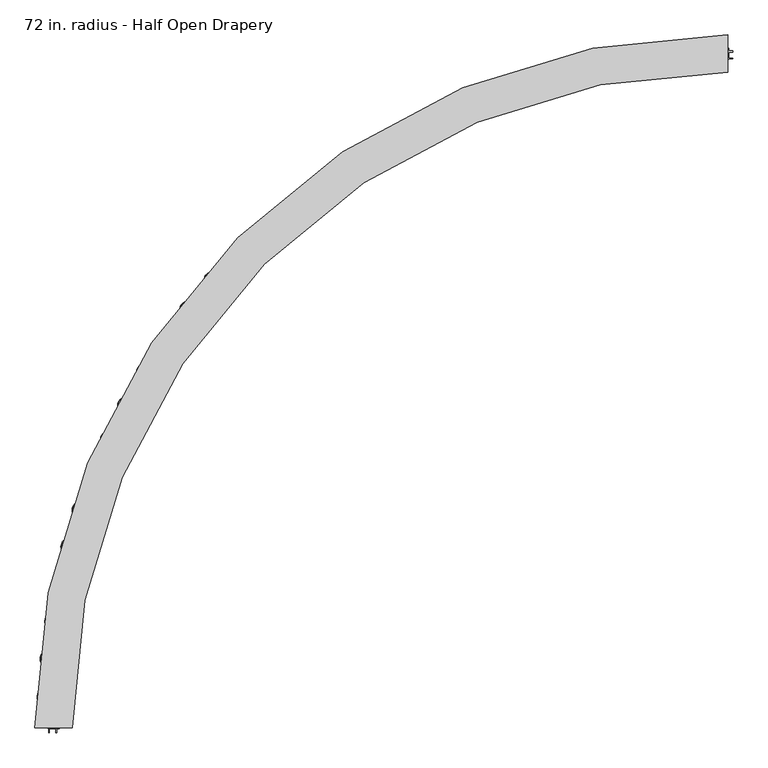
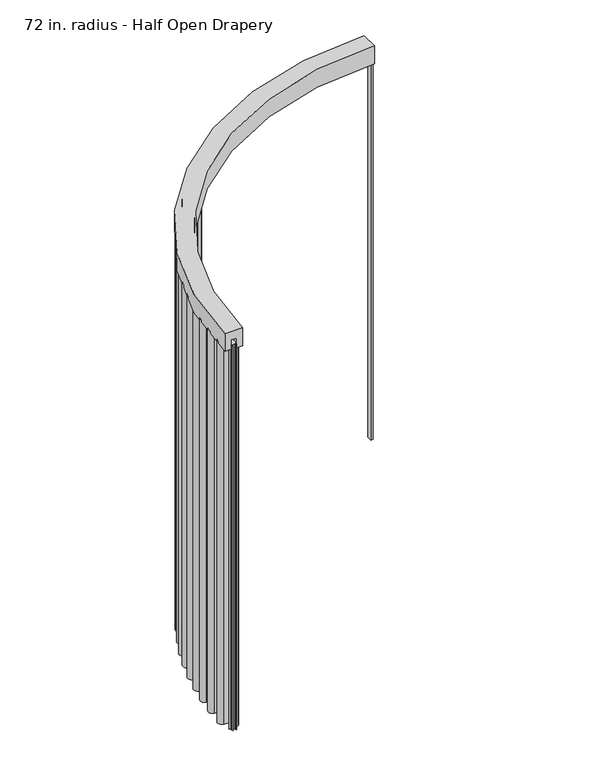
"""IFC4 building model written with IfcOpenShell, lengths in millimetres: furniture geometry, Haworth_Pergola_Drapery_Radial : 72 in. radius - Half Open Drapery."""

from ifc_helpers import new_model, si_unit, point, frame, frame_2d, origin, place, context, project, spatial, polyline, circle_curve, trimmed, segment, composite_curve, outline, extrude, source, transform, mapped, element, save
from ifc_brep_helpers import plane_surface, cylinder_surface, revolved_surface, advanced_brep


def furniture_72_in_radius_half_open_drapery_9427be67(model_context):
    return source(origin(), model_context, "Body", "SolidModel", [
        advanced_brep(
        [(38.1006913, 1880.0004562, 2438.4), (38.1006913, 1778.4004562, 2438.4), (38.1006913, 1778.4004562, 2331.8390625), (38.1006913, 1813.9821615, 2331.8390625), (38.1006913, 1813.9821615, 2388.7001663), (38.1006913, 1844.418751, 2388.7001663), (38.1006913, 1844.418751, 2331.8390625), (38.1006913, 1880.0004562, 2331.8390625), (-1841.899765, 0.0, 2438.4), (-1841.899765, 0.0, 2331.8390625), (-1806.3180598, 0.0, 2331.8390625), (-1806.3180598, 0.0, 2388.7001663), (-1775.8814702, 0.0, 2388.7001663), (-1775.8814702, 0.0, 2331.8390625), (-1740.299765, 0.0, 2331.8390625), (-1740.299765, 0.0, 2438.4)],
        [
            (0, 1),
            (1, 2),
            (2, 3),
            (3, 4),
            (4, 5),
            (5, 6),
            (6, 7),
            (7, 0),
            (8, 9),
            (9, 10),
            (10, 11),
            (11, 12),
            (12, 13),
            (13, 14),
            (14, 15),
            (15, 8),
            (15, 1, circle_curve(frame((38.1006913, 0.0, 2438.4), z_axis=(0.0, 0.0, -1.0), x_axis=(0.0, 1.0, 0.0)), 1778.4004562)),
            (0, 8, circle_curve(frame((38.1006913, 0.0, 2438.4), z_axis=(0.0, 0.0, 1.0), x_axis=(0.0, 1.0, 0.0)), 1880.0004562)),
            (14, 2, circle_curve(frame((38.1006913, 0.0, 2331.8390625), z_axis=(0.0, 0.0, -1.0), x_axis=(0.0, 1.0, 0.0)), 1778.4004562)),
            (7, 9, circle_curve(frame((38.1006913, 0.0, 2331.8390625), z_axis=(0.0, 0.0, 1.0), x_axis=(0.0, 1.0, 0.0)), 1880.0004562)),
            (13, 3, circle_curve(frame((38.1006913, 0.0, 2331.8390625), z_axis=(0.0, 0.0, -1.0), x_axis=(0.0, 1.0, 0.0)), 1813.9821615)),
            (12, 4, circle_curve(frame((38.1006913, 0.0, 2388.7001663), z_axis=(0.0, 0.0, -1.0), x_axis=(0.0, 1.0, 0.0)), 1813.9821615)),
            (11, 5, circle_curve(frame((38.1006913, 0.0, 2388.7001663), z_axis=(0.0, 0.0, -1.0), x_axis=(0.0, 1.0, 0.0)), 1844.418751)),
            (10, 6, circle_curve(frame((38.1006913, 0.0, 2331.8390625), z_axis=(0.0, 0.0, -1.0), x_axis=(0.0, 1.0, 0.0)), 1844.418751)),
        ],
        [
            plane_surface(frame((38.1006913, 0.0, 2451.1), z_axis=(1.0, 0.0, 0.0), x_axis=(0.0, 1.0, 0.0))),
            plane_surface(frame((38.1006913, 0.0, 2451.1), z_axis=(0.0, -1.0, 0.0), x_axis=(-1.0, 0.0, 0.0))),
            plane_surface(frame((38.1006913, 0.0, 2438.4), z_axis=(0.0, 0.0, 1.0), x_axis=(0.0, 1.0, 0.0))),
            revolved_surface(polyline([(38.1006913, 1778.4004562, 2438.4), (38.1006913, 1778.4004562, 2331.8390625)]), (38.1006913, 0.0, 2451.1), (0.0, 0.0, 1.0)),
            cylinder_surface(frame((38.1006913, 0.0, 2451.1), z_axis=(0.0, 0.0, 1.0), x_axis=(0.0, 1.0, 0.0)), 1880.0004562),
            plane_surface(frame((38.1006913, 0.0, 2331.8390625), z_axis=(0.0, 0.0, -1.0), x_axis=(0.0, 1.0, 0.0))),
            cylinder_surface(frame((38.1006913, 0.0, 2451.1), z_axis=(0.0, 0.0, 1.0), x_axis=(0.0, 1.0, 0.0)), 1813.9821615),
            plane_surface(frame((38.1006913, 0.0, 2388.7001663), z_axis=(0.0, 0.0, -1.0), x_axis=(0.0, 1.0, 0.0))),
            revolved_surface(polyline([(38.1006913, 1844.418751, 2388.7001663), (38.1006913, 1844.418751, 2331.8390625)]), (38.1006913, 0.0, 2451.1), (0.0, 0.0, 1.0)),
        ],
        [
            (0, [[1, 2, 3, 4, 5, 6, 7, 8]]),
            (1, [[9, 10, 11, 12, 13, 14, 15, 16]]),
            (2, [[17, -1, 18, -16]]),
            (3, [[19, -2, -17, -15]]),
            (4, [[-18, -8, 20, -9]]),
            (5, [[21, -3, -19, -14]]),
            (6, [[22, -4, -21, -13]]),
            (7, [[23, -5, -22, -12]]),
            (8, [[24, -6, -23, -11]]),
            (5, [[-20, -7, -24, -10]]),
        ],
    ),
        extrude(outline(composite_curve([segment(polyline([(-1813.2675039, 8.7991729), (-1813.2675039, 9.5929229), (-1772.6295579, 9.5929229)]), True, "CONTINUOUS"), segment(trimmed(circle_curve(frame_2d((-1772.6295579, 32.2004487)), 22.6075258), [point((-1772.6295579, 9.5929229))], [point((-1769.6769803, 54.6143396))], True, "CARTESIAN"), True, "CONTINUOUS"), segment(polyline([(-1769.6769803, 54.6143396), (-1814.6857035, 60.54333)]), True, "CONTINUOUS"), segment(trimmed(circle_curve(frame_2d((-1811.5275882, 84.5175193)), 24.1813036), [point((-1814.6857035, 60.54333))], [point((-1812.4998595, 108.6792688))], False, "CARTESIAN"), True, "CONTINUOUS"), segment(polyline([(-1812.4998595, 108.6792688), (-1767.1091523, 110.5057956)]), True, "CONTINUOUS"), segment(trimmed(circle_curve(frame_2d((-1768.0180469, 133.0925785)), 22.6050625), [point((-1767.1091523, 110.5057956))], [point((-1763.8193529, 155.3042831))], True, "CARTESIAN"), True, "CONTINUOUS"), segment(polyline([(-1763.8193529, 155.3042831), (-1808.286458, 163.7099309)]), True, "CONTINUOUS"), segment(trimmed(circle_curve(frame_2d((-1803.7922369, 187.4850177)), 24.1961314), [point((-1808.286458, 163.7099309))], [point((-1803.4140194, 211.6781929))], False, "CARTESIAN"), True, "CONTINUOUS"), segment(polyline([(-1803.4140194, 211.6781929), (-1758.1420693, 210.9704462)]), True, "CONTINUOUS"), segment(trimmed(circle_curve(frame_2d((-1757.788763, 233.5701509)), 22.6024662), [point((-1758.1420693, 210.9704462))], [point((-1752.3573521, 255.5103253))], True, "CARTESIAN"), True, "CONTINUOUS"), segment(polyline([(-1752.3573521, 255.5103253), (-1796.4292649, 266.4205699)]), True, "CONTINUOUS"), segment(trimmed(circle_curve(frame_2d((-1790.6174697, 289.897306)), 24.1854108), [point((-1796.4292649, 266.4205699))], [point((-1788.8901204, 314.0209533))], False, "CARTESIAN"), True, "CONTINUOUS"), segment(polyline([(-1788.8901204, 314.0209533), (-1743.5851539, 310.7769372)]), True, "CONTINUOUS"), segment(trimmed(circle_curve(frame_2d((-1741.9710116, 333.3195691)), 22.6003475), [point((-1743.5851539, 310.7769372))], [point((-1735.3239561, 354.9203182))], True, "CARTESIAN"), True, "CONTINUOUS"), segment(polyline([(-1735.3239561, 354.9203182), (-1778.5125348, 368.2104535)]), True, "CONTINUOUS"), segment(trimmed(circle_curve(frame_2d((-1771.3933974, 391.345314)), 24.2054516), [point((-1778.5125348, 368.2104535))], [point((-1768.3195733, 415.3548016))], False, "CARTESIAN"), True, "CONTINUOUS"), segment(polyline([(-1768.3195733, 415.3548016), (-1723.5637359, 409.6249178)]), True, "CONTINUOUS"), segment(trimmed(circle_curve(frame_2d((-1720.6927841, 432.0497797)), 22.6078923), [point((-1723.5637359, 409.6249178))], [point((-1712.8477053, 453.2528817))], True, "CARTESIAN"), True, "CONTINUOUS"), segment(polyline([(-1712.8477053, 453.2528817), (-1755.3793884, 468.9894662)]), True, "CONTINUOUS"), segment(trimmed(circle_curve(frame_2d((-1746.9867429, 491.6724911)), 24.1858661), [point((-1755.3793884, 468.9894662))], [point((-1742.5810222, 515.4536967))], False, "CARTESIAN"), True, "CONTINUOUS"), segment(polyline([(-1742.5810222, 515.4536967), (-1697.7640357, 507.1508743)]), True, "CONTINUOUS"), segment(trimmed(circle_curve(frame_2d((-1693.6505392, 529.3547116)), 22.5816572), [point((-1697.7640357, 507.1508743))], [point((-1684.644538, 550.0627581))], True, "CARTESIAN"), True, "CONTINUOUS"), segment(polyline([(-1684.644538, 550.0627581), (-1726.3426429, 568.1974083)]), True, "CONTINUOUS"), segment(trimmed(circle_curve(frame_2d((-1716.6931292, 590.3851225)), 24.1952015), [point((-1726.3426429, 568.1974083))], [point((-1710.9645402, 613.8923776))], False, "CARTESIAN"), True, "CONTINUOUS"), segment(polyline([(-1710.9645402, 613.8923776), (-1667.1292609, 603.2099608)]), True, "CONTINUOUS"), segment(trimmed(circle_curve(frame_2d((-1661.7731813, 625.1886241)), 22.621875), [point((-1667.1292609, 603.2099608))], [point((-1651.6072198, 645.3975937))], True, "CARTESIAN"), True, "CONTINUOUS"), segment(polyline([(-1651.6072198, 645.3975937), (-1691.7651569, 665.5987249)]), True, "CONTINUOUS"), segment(trimmed(circle_curve(frame_2d((-1680.8857945, 687.2258679)), 24.209375), [point((-1691.7651569, 665.5987249))], [point((-1673.8498546, 710.390267))], False, "CARTESIAN"), True, "CONTINUOUS"), segment(polyline([(-1673.8498546, 710.390267), (-1630.8375466, 697.3257357)]), True, "CONTINUOUS"), segment(trimmed(circle_curve(frame_2d((-1624.2629798, 718.9711579)), 22.621875), [point((-1630.8375466, 697.3257357))], [point((-1612.9847645, 738.5811321))], True, "CARTESIAN"), True, "CONTINUOUS"), segment(polyline([(-1612.9847645, 738.5811321), (-1651.9526335, 760.9925851)]), True, "CONTINUOUS"), segment(trimmed(circle_curve(frame_2d((-1639.8829645, 781.9786979)), 24.209375), [point((-1651.9526335, 760.9925851))], [point((-1631.564904, 804.7142143))], False, "CARTESIAN"), True, "CONTINUOUS"), segment(polyline([(-1631.564904, 804.7142143), (-1589.3483107, 789.268769)]), True, "CONTINUOUS"), segment(trimmed(circle_curve(frame_2d((-1581.5756968, 810.5134319)), 22.621875), [point((-1589.3483107, 789.268769))], [point((-1569.2204104, 829.4632637))], True, "CARTESIAN"), True, "CONTINUOUS"), segment(polyline([(-1569.2204104, 829.4632637), (-1606.8765453, 854.0150556)]), True, "CONTINUOUS"), segment(trimmed(circle_curve(frame_2d((-1593.6542213, 874.2947002)), 24.209375), [point((-1606.8765453, 854.0150556))], [point((-1584.0799774, 896.5304303))], False, "CARTESIAN"), True, "CONTINUOUS"), segment(polyline([(-1584.0799774, 896.5304303), (-1542.7920826, 878.7527196)]), True, "CONTINUOUS"), segment(trimmed(circle_curve(frame_2d((-1533.8456579, 899.5303691)), 22.621875), [point((-1542.7920826, 878.7527196))], [point((-1520.4517928, 917.7609369))], True, "CARTESIAN"), True, "CONTINUOUS"), segment(polyline([(-1520.4517928, 917.7609369), (-1556.6783212, 944.3763028)]), True, "CONTINUOUS"), segment(trimmed(circle_curve(frame_2d((-1542.3445357, 963.8862088)), 24.209375), [point((-1556.6783212, 944.3763028))], [point((-1531.5440207, 985.5528355))], False, "CARTESIAN"), True, "CONTINUOUS"), segment(polyline([(-1531.5440207, 985.5528355), (-1491.3127076, 965.49808)]), True, "CONTINUOUS"), segment(trimmed(circle_curve(frame_2d((-1481.220423, 985.7439443)), 22.621875), [point((-1491.3127076, 965.49808))], [point((-1466.8298301, 1003.1984584))], True, "CARTESIAN"), True, "CONTINUOUS"), segment(polyline([(-1466.8298301, 1003.1984584), (-1501.5145614, 1031.7947198)]), True, "CONTINUOUS"), segment(trimmed(circle_curve(frame_2d((-1486.1141024, 1050.4741121)), 24.209375), [point((-1501.5145614, 1031.7947198))], [point((-1474.1209556, 1071.5040495))], False, "CARTESIAN"), True, "CONTINUOUS"), segment(polyline([(-1474.1209556, 1071.5040495), (-1435.0715605, 1049.2346001)]), True, "CONTINUOUS"), segment(trimmed(circle_curve(frame_2d((-1423.8648496, 1068.8855253)), 22.621875), [point((-1435.0715605, 1049.2346001))], [point((-1408.5223554, 1085.509517))], True, "CARTESIAN"), True, "CONTINUOUS"), segment(polyline([(-1408.5223554, 1085.509517), (-1441.5564396, 1115.9970949)]), True, "CONTINUOUS"), segment(trimmed(circle_curve(frame_2d((-1425.1372792, 1133.7876826)), 24.209375), [point((-1441.5564396, 1115.9970949))], [point((-1411.9889102, 1154.1153541))], False, "CARTESIAN"), True, "CONTINUOUS"), segment(polyline([(-1411.9889102, 1154.1153541), (-1374.2437703, 1129.7009971)]), True, "CONTINUOUS"), segment(trimmed(circle_curve(frame_2d((-1361.9575893, 1148.6957065)), 22.621875), [point((-1374.2437703, 1129.7009971))], [point((-1345.7110388, 1164.4373336))], True, "CARTESIAN"), True, "CONTINUOUS"), segment(polyline([(-1345.7110388, 1164.4373336), (-1376.9916265, 1196.7212674)]), True, "CONTINUOUS"), segment(trimmed(circle_curve(frame_2d((-1359.6049671, 1213.5675701)), 24.209375), [point((-1376.9916265, 1196.7212674))], [point((-1345.3423961, 1233.1295973))], False, "CARTESIAN"), True, "CONTINUOUS"), segment(polyline([(-1345.3423961, 1233.1295973), (-1309.0188842, 1206.6463159)]), True, "CONTINUOUS"), segment(trimmed(circle_curve(frame_2d((-1295.6915637, 1224.9255872)), 22.621875), [point((-1309.0188842, 1206.6463159))], [point((-1278.5916131, 1239.7357497))], True, "CARTESIAN"), True, "CONTINUOUS"), segment(polyline([(-1278.5916131, 1239.7357497), (-1308.0214637, 1273.7157274)]), True, "CONTINUOUS"), segment(trimmed(circle_curve(frame_2d((-1289.7215165, 1289.5651997)), 24.209375), [point((-1308.0214637, 1273.7157274))], [point((-1274.3891813, 1308.3005495))], False, "CARTESIAN"), True, "CONTINUOUS"), segment(polyline([(-1274.3891813, 1308.3005495), (-1239.6008033, 1279.8309945), (-1240.1648625, 1279.2669353), (-1274.8918808, 1307.6862757)]), True, "CONTINUOUS"), segment(trimmed(circle_curve(frame_2d((-1289.7215165, 1289.5651997)), 23.415625), [point((-1274.8918808, 1307.6862757))], [point((-1307.4214654, 1274.2353823))], True, "CARTESIAN"), True, "CONTINUOUS"), segment(polyline([(-1307.4214654, 1274.2353823), (-1277.9916148, 1240.2554046)]), True, "CONTINUOUS"), segment(trimmed(circle_curve(frame_2d((-1295.6915637, 1224.9255872)), 23.415625), [point((-1277.9916148, 1240.2554046))], [point((-1309.4865095, 1206.004938))], False, "CARTESIAN"), True, "CONTINUOUS"), segment(polyline([(-1309.4865095, 1206.004938), (-1345.8100214, 1232.4882193)]), True, "CONTINUOUS"), segment(trimmed(circle_curve(frame_2d((-1359.6049671, 1213.5675701)), 23.415625), [point((-1345.8100214, 1232.4882193))], [point((-1376.4215721, 1197.2736052))], True, "CARTESIAN"), True, "CONTINUOUS"), segment(polyline([(-1376.4215721, 1197.2736052), (-1345.1409844, 1164.9896714)]), True, "CONTINUOUS"), segment(trimmed(circle_curve(frame_2d((-1361.9575893, 1148.6957065)), 23.415625), [point((-1345.1409844, 1164.9896714))], [point((-1374.6748643, 1129.034516))], False, "CARTESIAN"), True, "CONTINUOUS"), segment(polyline([(-1374.6748643, 1129.034516), (-1412.4200042, 1153.4488731)]), True, "CONTINUOUS"), segment(trimmed(circle_curve(frame_2d((-1425.1372792, 1133.7876826)), 23.415625), [point((-1412.4200042, 1153.4488731))], [point((-1441.0181065, 1116.5803929))], True, "CARTESIAN"), True, "CONTINUOUS"), segment(polyline([(-1441.0181065, 1116.5803929), (-1407.9840223, 1086.092815)]), True, "CONTINUOUS"), segment(trimmed(circle_curve(frame_2d((-1423.8648496, 1068.8855253)), 23.415625), [point((-1407.9840223, 1086.092815))], [point((-1435.4647784, 1048.545094))], False, "CARTESIAN"), True, "CONTINUOUS"), segment(polyline([(-1435.4647784, 1048.545094), (-1474.5141735, 1070.8145434)]), True, "CONTINUOUS"), segment(trimmed(circle_curve(frame_2d((-1486.1141024, 1050.4741121)), 23.415625), [point((-1474.5141735, 1070.8145434))], [point((-1501.0096283, 1032.4071589))], True, "CARTESIAN"), True, "CONTINUOUS"), segment(polyline([(-1501.0096283, 1032.4071589), (-1466.324897, 1003.8108975)]), True, "CONTINUOUS"), segment(trimmed(circle_curve(frame_2d((-1481.220423, 985.7439443)), 23.415625), [point((-1466.324897, 1003.8108975))], [point((-1491.6668228, 964.7876988))], False, "CARTESIAN"), True, "CONTINUOUS"), segment(polyline([(-1491.6668228, 964.7876988), (-1531.8981359, 984.8424543)]), True, "CONTINUOUS"), segment(trimmed(circle_curve(frame_2d((-1542.3445357, 963.8862088)), 23.415625), [point((-1531.8981359, 984.8424543))], [point((-1556.208361, 945.0159719))], True, "CARTESIAN"), True, "CONTINUOUS"), segment(polyline([(-1556.208361, 945.0159719), (-1519.9818326, 918.400606)]), True, "CONTINUOUS"), segment(trimmed(circle_curve(frame_2d((-1533.8456579, 899.5303691)), 23.415625), [point((-1519.9818326, 918.400606))], [point((-1543.1059922, 878.0236793))], False, "CARTESIAN"), True, "CONTINUOUS"), segment(polyline([(-1543.1059922, 878.0236793), (-1584.3938871, 895.80139)]), True, "CONTINUOUS"), segment(trimmed(circle_curve(frame_2d((-1593.6542213, 874.2947002)), 23.415625), [point((-1584.3938871, 895.80139))], [point((-1606.4430265, 854.679962))], True, "CARTESIAN"), True, "CONTINUOUS"), segment(polyline([(-1606.4430265, 854.679962), (-1568.7868916, 830.1281701)]), True, "CONTINUOUS"), segment(trimmed(circle_curve(frame_2d((-1581.5756968, 810.5134319)), 23.415625), [point((-1568.7868916, 830.1281701))], [point((-1589.621034, 788.5233422))], False, "CARTESIAN"), True, "CONTINUOUS"), segment(polyline([(-1589.621034, 788.5233422), (-1631.8376273, 803.9687876)]), True, "CONTINUOUS"), segment(trimmed(circle_curve(frame_2d((-1639.8829645, 781.9786979)), 23.415625), [point((-1631.8376273, 803.9687876))], [point((-1651.5569066, 761.6806544))], True, "CARTESIAN"), True, "CONTINUOUS"), segment(polyline([(-1651.5569066, 761.6806544), (-1612.5890376, 739.2692013)]), True, "CONTINUOUS"), segment(trimmed(circle_curve(frame_2d((-1624.2629798, 718.9711579)), 23.415625), [point((-1612.5890376, 739.2692013))], [point((-1631.0682332, 696.5662472))], False, "CARTESIAN"), True, "CONTINUOUS"), segment(polyline([(-1631.0682332, 696.5662472), (-1674.0805411, 709.6307785)]), True, "CONTINUOUS"), segment(trimmed(circle_curve(frame_2d((-1680.8857945, 687.2258679)), 23.415625), [point((-1674.0805411, 709.6307785))], [point((-1691.4084565, 666.3078116))], True, "CARTESIAN"), True, "CONTINUOUS"), segment(polyline([(-1691.4084565, 666.3078116), (-1651.2505193, 646.1066804)]), True, "CONTINUOUS"), segment(trimmed(circle_curve(frame_2d((-1661.7731813, 625.1886241)), 23.415625), [point((-1651.2505193, 646.1066804))], [point((-1667.3171935, 602.4387796))], False, "CARTESIAN"), True, "CONTINUOUS"), segment(polyline([(-1667.3171935, 602.4387796), (-1711.1524728, 613.1211965)]), True, "CONTINUOUS"), segment(trimmed(circle_curve(frame_2d((-1716.6931292, 590.3851225)), 23.4014515), [point((-1711.1524728, 613.1211965))], [point((-1726.0260801, 568.9253005))], True, "CARTESIAN"), True, "CONTINUOUS"), segment(polyline([(-1726.0260801, 568.9253005), (-1684.3279752, 550.7906503)]), True, "CONTINUOUS"), segment(trimmed(circle_curve(frame_2d((-1693.6505392, 529.3547116)), 23.3754072), [point((-1684.3279752, 550.7906503))], [point((-1697.9086259, 506.3704048))], False, "CARTESIAN"), True, "CONTINUOUS"), segment(polyline([(-1697.9086259, 506.3704048), (-1742.7256125, 514.6732272)]), True, "CONTINUOUS"), segment(trimmed(circle_curve(frame_2d((-1746.9867429, 491.6724911)), 23.3921161), [point((-1742.7256125, 514.6732272))], [point((-1755.1039522, 469.7338948))], True, "CARTESIAN"), True, "CONTINUOUS"), segment(polyline([(-1755.1039522, 469.7338948), (-1712.5722691, 453.9973104)]), True, "CONTINUOUS"), segment(trimmed(circle_curve(frame_2d((-1720.6927841, 432.0497797)), 23.4016423), [point((-1712.5722691, 453.9973104))], [point((-1723.6645333, 408.8375939))], False, "CARTESIAN"), True, "CONTINUOUS"), segment(polyline([(-1723.6645333, 408.8375939), (-1768.4203708, 414.5674777)]), True, "CONTINUOUS"), segment(trimmed(circle_curve(frame_2d((-1771.3933974, 391.345314)), 23.4117016), [point((-1768.4203708, 414.5674777))], [point((-1778.2790827, 368.9690964))], True, "CARTESIAN"), True, "CONTINUOUS"), segment(polyline([(-1778.2790827, 368.9690964), (-1735.090504, 355.6789611)]), True, "CONTINUOUS"), segment(trimmed(circle_curve(frame_2d((-1741.9710116, 333.3195691)), 23.3940975), [point((-1735.090504, 355.6789611))], [point((-1743.6418444, 309.9852142))], False, "CARTESIAN"), True, "CONTINUOUS"), segment(polyline([(-1743.6418444, 309.9852142), (-1788.9468109, 313.2292304)]), True, "CONTINUOUS"), segment(trimmed(circle_curve(frame_2d((-1790.6174697, 289.897306)), 23.3916608), [point((-1788.9468109, 313.2292304))], [point((-1796.2385255, 267.1910617))], True, "CARTESIAN"), True, "CONTINUOUS"), segment(polyline([(-1796.2385255, 267.1910617), (-1752.1666126, 256.280817)]), True, "CONTINUOUS"), segment(trimmed(circle_curve(frame_2d((-1757.788763, 233.5701509)), 23.3962162), [point((-1752.1666126, 256.280817))], [point((-1758.1544767, 210.1767931))], False, "CARTESIAN"), True, "CONTINUOUS"), segment(polyline([(-1758.1544767, 210.1767931), (-1803.4264268, 210.8845398)]), True, "CONTINUOUS"), segment(trimmed(circle_curve(frame_2d((-1803.7922369, 187.4850177)), 23.4023814), [point((-1803.4264268, 210.8845398))], [point((-1808.1390259, 164.4898686))], True, "CARTESIAN"), True, "CONTINUOUS"), segment(polyline([(-1808.1390259, 164.4898686), (-1763.6719207, 156.0842208)]), True, "CONTINUOUS"), segment(trimmed(circle_curve(frame_2d((-1768.0180469, 133.0925785)), 23.3988125), [point((-1763.6719207, 156.0842208))], [point((-1767.0772376, 109.7126875))], False, "CARTESIAN"), True, "CONTINUOUS"), segment(polyline([(-1767.0772376, 109.7126875), (-1812.4679448, 107.8861606)]), True, "CONTINUOUS"), segment(trimmed(circle_curve(frame_2d((-1811.5275882, 84.5175193)), 23.3875536), [point((-1812.4679448, 107.8861606))], [point((-1814.5820386, 61.3302815))], True, "CARTESIAN"), True, "CONTINUOUS"), segment(polyline([(-1814.5820386, 61.3302815), (-1769.5733154, 55.4012911)]), True, "CONTINUOUS"), segment(trimmed(circle_curve(frame_2d((-1772.6295579, 32.2004487)), 23.4012758), [point((-1769.5733154, 55.4012911))], [point((-1772.6295579, 8.7991729))], False, "CARTESIAN"), True, "CONTINUOUS"), segment(polyline([(-1772.6295579, 8.7991729), (-1813.2675039, 8.7991729)]), True, "CONTINUOUS")], self_intersect=False)), frame((0.0, 0.0, 38.1), z_axis=(0.0, 0.0, 1.0), x_axis=(1.0, 0.0, 0.0)), (0.0, 0.0, 1.0), 2305.05),
        extrude(outline(polyline([(-1785.7851322, -1.7500481), (-1802.4351327, -1.7500481), (-1802.4351327, -13.2500478), (-1804.010132, -13.2500478), (-1804.010132, -1.7500481), (-1805.8351319, -1.7500481), (-1805.8351319, 0.0), (-1775.3851328, 0.0), (-1775.3851328, -1.7500481), (-1782.7851325, -1.7500481), (-1782.7851325, -13.4000477), (-1785.7851322, -13.4000477), (-1785.7851322, -1.7500481)])), frame((0.0, 0.0, 38.1), z_axis=(0.0, 0.0, 1.0), x_axis=(1.0, 0.0, 0.0)), (0.0, 0.0, 1.0), 2317.75),
        extrude(outline(polyline([(39.849994, 1844.0291096), (39.849994, 1836.6291253), (51.5000097, 1836.6291253), (51.5000097, 1833.6290177), (39.849994, 1833.6290177), (39.849994, 1816.9790892), (51.3500188, 1816.9790892), (51.3500188, 1815.40404), (39.849994, 1815.40404), (39.849994, 1813.5790787), (38.1, 1813.5790787), (38.1, 1844.0291096), (39.849994, 1844.0291096)])), frame((0.0, 0.0, 38.1), z_axis=(0.0, 0.0, 1.0), x_axis=(1.0, 0.0, 0.0)), (0.0, 0.0, 1.0), 2317.75),
        extrude(outline(composite_curve([segment(trimmed(circle_curve(frame_2d((38.1, 0.0)), 1813.507017), [point((38.1, 1813.5070171))], [point((-1775.4070171, 0.0))], True, "CARTESIAN"), True, "CONTINUOUS"), segment(polyline([(-1775.4070171, 0.0), (-1806.6832164, 0.0)]), True, "CONTINUOUS"), segment(trimmed(circle_curve(frame_2d((38.1, 0.0)), 1844.7832163), [point((-1806.6832164, 0.0))], [point((38.1, 1844.7832164))], False, "CARTESIAN"), True, "CONTINUOUS"), segment(polyline([(38.1, 1844.7832164), (38.1, 1813.5070171)]), True, "CONTINUOUS")], self_intersect=False)), frame((0.0, 0.0, 2355.85), z_axis=(0.0, 0.0, 1.0), x_axis=(1.0, 0.0, 0.0)), (0.0, 0.0, 1.0), 1.7500001),
    ])


if __name__ == "__main__":
    model = new_model("IFC4")
    model_context = context("Model", 3, world=origin())
    ifc_project = project(units=[si_unit("LENGTHUNIT", "METRE", prefix="MILLI")], contexts=[model_context])
    site = spatial("IfcSite", under=ifc_project)
    building = spatial("IfcBuilding", under=site)
    placement = place(None, origin())
    furniture_72_in_radius_half_open_drapery_shape = furniture_72_in_radius_half_open_drapery_9427be67(model_context)
    element("IfcFurniture", 1, ObjectType="Haworth_Pergola_Drapery_Radial : 72 in. radius - Half Open Drapery", at=placement, inside=building, context=model_context, shape_type="MappedRepresentation", body=[
        mapped(furniture_72_in_radius_half_open_drapery_shape, transform((0.0, 0.0, 0.0), x_axis=(1.0, 0.0, 0.0), y_axis=(0.0, 1.0, 0.0), z_axis=(0.0, 0.0, 1.0))),
    ])
    save(model, "model.ifc")
